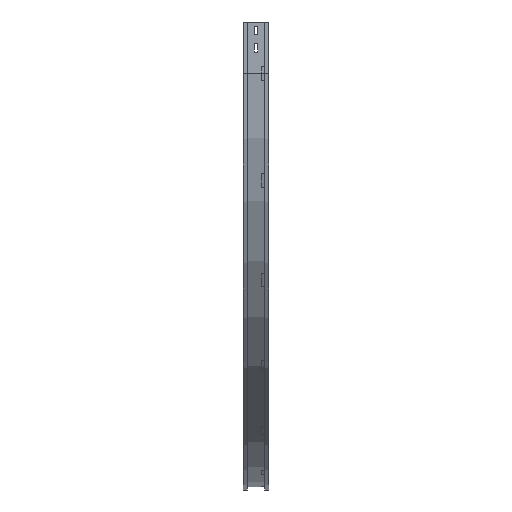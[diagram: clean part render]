
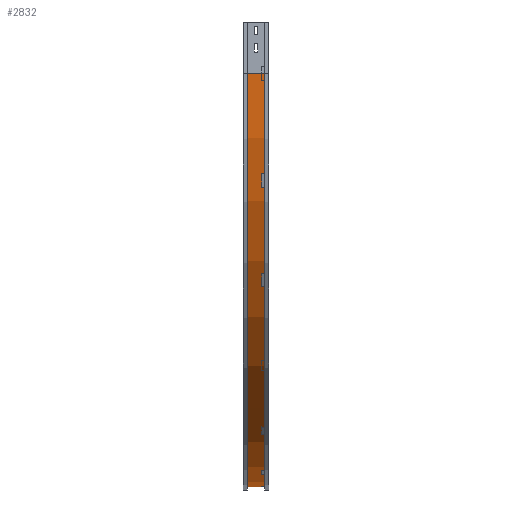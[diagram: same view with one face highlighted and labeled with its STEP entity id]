
A CAD part, left-side view. The second image highlights one B-rep face of the part: STEP entity #2832.
In plain terms, the highlighted cylindrical face has radius 1200 mm (diameter 2400 mm), a partial arc.
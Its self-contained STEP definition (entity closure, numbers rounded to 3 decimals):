
#138 = ORIENTED_EDGE ( 'NONE', *, *, #2040, .T. ) ;
#308 = DIRECTION ( 'NONE',  ( 0., -1., 0. ) ) ;
#309 = EDGE_CURVE ( 'NONE', #677, #2319, #2329, .T. ) ;
#373 = VERTEX_POINT ( 'NONE', #2894 ) ;
#400 = CARTESIAN_POINT ( 'NONE',  ( 9., 63., -150. ) ) ;
#443 = CARTESIAN_POINT ( 'NONE',  ( 1209., 12., -150. ) ) ;
#566 = CARTESIAN_POINT ( 'NONE',  ( 1209., 12., -1350. ) ) ;
#586 = CARTESIAN_POINT ( 'NONE',  ( 9., 12., -150. ) ) ;
#608 = ORIENTED_EDGE ( 'NONE', *, *, #3284, .T. ) ;
#675 = DIRECTION ( 'NONE',  ( 0., -1., 0. ) ) ;
#677 = VERTEX_POINT ( 'NONE', #400 ) ;
#687 = ORIENTED_EDGE ( 'NONE', *, *, #1491, .F. ) ;
#911 = AXIS2_PLACEMENT_3D ( 'NONE', #2825, #1748, #2331 ) ;
#1155 = EDGE_LOOP ( 'NONE', ( #687, #1738, #608, #138 ) ) ;
#1201 = CARTESIAN_POINT ( 'NONE',  ( 1209., 0., -150. ) ) ;
#1247 = CIRCLE ( 'NONE', #911, 1200. ) ;
#1342 = DIRECTION ( 'NONE',  ( 0., -1., 0. ) ) ;
#1491 = EDGE_CURVE ( 'NONE', #2319, #373, #2405, .T. ) ;
#1738 = ORIENTED_EDGE ( 'NONE', *, *, #309, .F. ) ;
#1748 = DIRECTION ( 'NONE',  ( 0., -1., 0. ) ) ;
#1933 = LINE ( 'NONE', #566, #2241 ) ;
#1996 = DIRECTION ( 'NONE',  ( 0., 0., -1. ) ) ;
#2040 = EDGE_CURVE ( 'NONE', #2559, #373, #1933, .T. ) ;
#2181 = VECTOR ( 'NONE', #1342, 1000. ) ;
#2241 = VECTOR ( 'NONE', #308, 1000. ) ;
#2242 = DIRECTION ( 'NONE',  ( -1., 0., 0. ) ) ;
#2319 = VERTEX_POINT ( 'NONE', #586 ) ;
#2329 = LINE ( 'NONE', #3174, #2181 ) ;
#2331 = DIRECTION ( 'NONE',  ( -1., 0., 0. ) ) ;
#2362 = CARTESIAN_POINT ( 'NONE',  ( 1209., 63., -1350. ) ) ;
#2405 = CIRCLE ( 'NONE', #2700, 1200. ) ;
#2559 = VERTEX_POINT ( 'NONE', #2362 ) ;
#2700 = AXIS2_PLACEMENT_3D ( 'NONE', #443, #3384, #2242 ) ;
#2796 = CYLINDRICAL_SURFACE ( 'NONE', #3172, 1200. ) ;
#2825 = CARTESIAN_POINT ( 'NONE',  ( 1209., 63., -150. ) ) ;
#2832 = ADVANCED_FACE ( 'NONE', ( #3341 ), #2796, .T. ) ;
#2894 = CARTESIAN_POINT ( 'NONE',  ( 1209., 12., -1350. ) ) ;
#3172 = AXIS2_PLACEMENT_3D ( 'NONE', #1201, #675, #1996 ) ;
#3174 = CARTESIAN_POINT ( 'NONE',  ( 9., 12., -150. ) ) ;
#3284 = EDGE_CURVE ( 'NONE', #677, #2559, #1247, .T. ) ;
#3341 = FACE_OUTER_BOUND ( 'NONE', #1155, .T. ) ;
#3384 = DIRECTION ( 'NONE',  ( 0., -1., 0. ) ) ;
